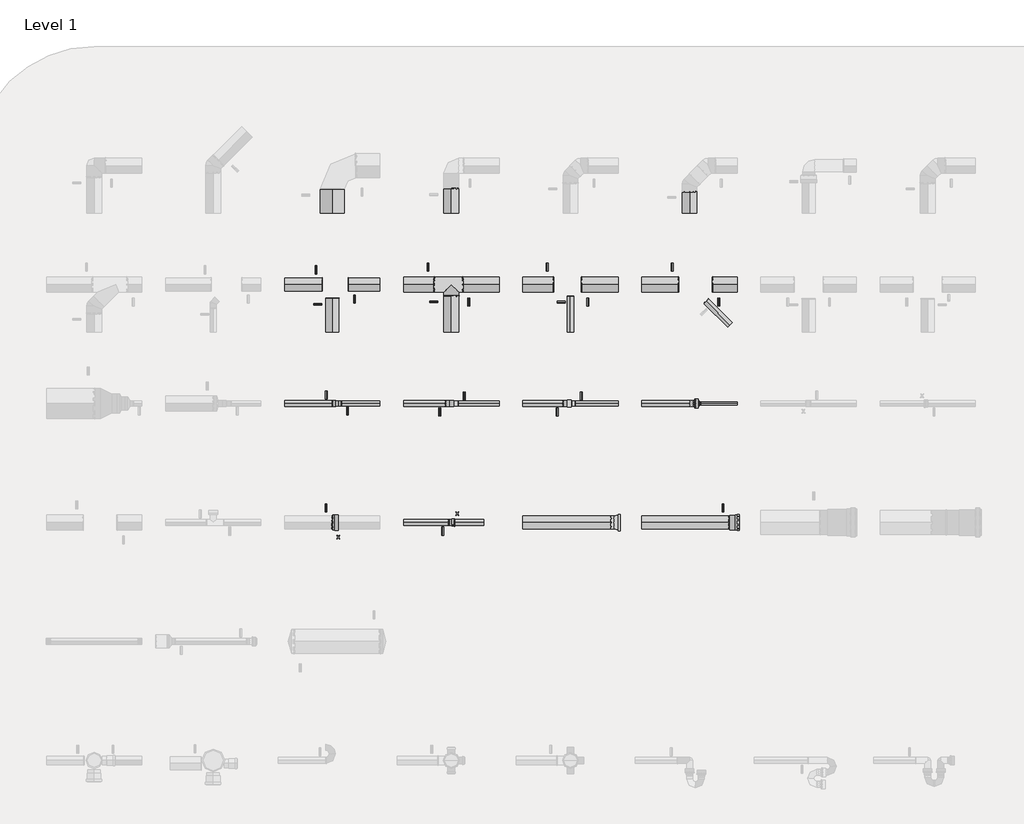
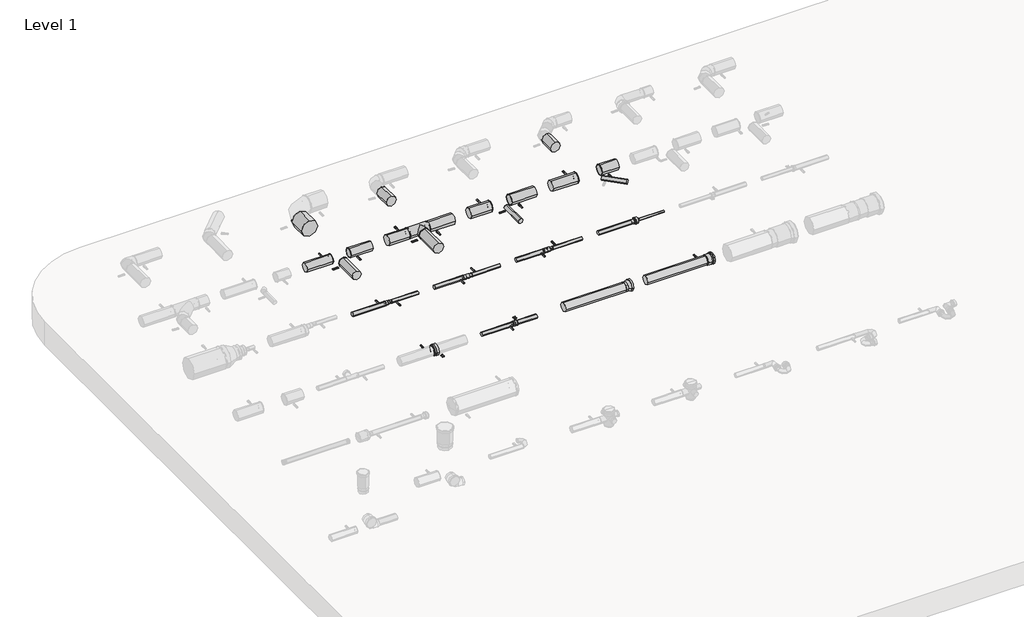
# One storey, part 3 of 6: 34 pipe fittings, 27 pipe segments.
"""IFC4 building model written with IfcOpenShell, lengths in millimetres."""

from ifc_helpers import new_model, si_unit, point, frame, frame_2d, origin, place, context, project, spatial, circle_curve, trimmed, segment, composite_curve, outline, extrude, transform, mapped, element, save
from components import pipe_fitting_81bb528a, pipe_fitting_5bbf7105, var_7b0d4120, var_48b90cc6, var_c57503f9, var_00a72124, var_98dd62a4, nested_do_not_use_db0ed7d6, nested_do_not_use_a526494d, nested_do_not_use_e3f89409, nested_do_not_use_0fed0da3, nested_do_not_use_1446917e, nested_do_not_use_93614455, nested_do_not_use_7e7c9079, welded_7e5780db, welded_75b1cb19, welded_dc74d5dd, welded_63566782, welded_ac007b25

model = new_model("IFC4")

# Units and contexts
model_context = context("Model", 3, world=origin())
ifc_project = project(units=[si_unit("LENGTHUNIT", "METRE", prefix="MILLI")], contexts=[model_context])

# Site, building, storey
site = spatial("IfcSite", under=ifc_project)
building = spatial("IfcBuilding", under=site)
storey = spatial("IfcBuildingStorey", under=building, Name="Level 1", Elevation=0.0)

# Pipe fittings
placement = place(None, origin())
pipe_fitting_shape = pipe_fitting_81bb528a(model_context)
element("IfcPipeFitting", 1, ObjectType="NLRS_52_PIF_UN_HDPE weld_Akatherm : ringseal or non-welded", at=placement, inside=storey, context=model_context, shape_type="MappedRepresentation", body=[
    mapped(pipe_fitting_shape, transform((4665.9781064, 17273.6274824, 200.0), x_axis=(1.0, 0.0, 0.0), y_axis=(0.0, 1.0, 0.0), z_axis=(0.0, 0.0, 1.0))),
])
pipe_fitting_2_shape = pipe_fitting_5bbf7105(model_context)
element("IfcPipeFitting", 2, ObjectType="NLRS_52_PIF_UN_HDPE weld_Akatherm : ringseal or non-welded", at=placement, inside=storey, context=model_context, shape_type="MappedRepresentation", body=[
    mapped(pipe_fitting_2_shape, transform((5664.9781064, 17273.6274824, 200.0), x_axis=(1.0, 0.0, 0.0), y_axis=(0.0, -1.0, 0.0), z_axis=(0.0, 0.0, -1.0))),
])
var_shape = var_7b0d4120(model_context)
element("IfcPipeFitting", 3, ObjectType="NLRS_52_PIF_UN_HDPE branch_Akatherm : Var.", at=placement, inside=storey, context=model_context, shape_type="MappedRepresentation", body=[
    mapped(var_shape, transform((5659.9781064, 19273.6274824, 200.0), x_axis=(-1.0, 0.0, 0.0), y_axis=(0.0, -1.0, 0.0), z_axis=(0.0, 0.0, 1.0))),
])
var_2_shape = var_48b90cc6(model_context)
element("IfcPipeFitting", 4, ObjectType="NLRS_52_PIF_UN_HDPE snap socket short_Akatherm : Var.", at=placement, inside=storey, context=model_context, shape_type="MappedRepresentation", body=[
    mapped(var_2_shape, transform((4659.9781064, 17273.6274824, 200.0), x_axis=(1.0, 0.0, 0.0), y_axis=(0.0, 1.0, 0.0), z_axis=(0.0, 0.0, 1.0))),
])
var_3_shape = var_c57503f9(model_context)
element("IfcPipeFitting", 5, ObjectType="NLRS_52_PIF_UN_HDPE snap socket_Akatherm : Var.", at=placement, inside=storey, context=model_context, shape_type="MappedRepresentation", body=[
    mapped(var_3_shape, transform((7997.9781064, 17273.6274824, 200.0), x_axis=(1.0, 0.0, 0.0), y_axis=(0.0, 1.0, 0.0), z_axis=(0.0, 0.0, 1.0))),
])
var_4_shape = var_00a72124(model_context)
element("IfcPipeFitting", 6, ObjectType="NLRS_52_PIF_UN_HDPE stub flange_Akatherm : Var.", at=placement, inside=storey, context=model_context, shape_type="MappedRepresentation", body=[
    mapped(var_4_shape, transform((7079.9781064, 17273.6274824, 200.0), x_axis=(-1.0000000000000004, 0.0, 0.0), y_axis=(0.0, -1.0000000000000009, 0.0), z_axis=(0.0, 0.0, 1.0000000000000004))),
])
var_5_shape = var_98dd62a4(model_context)
element("IfcPipeFitting", 7, ObjectType="NLRS_52_PIF_UN_HDPE threaded connector_Akatherm : Var.", at=placement, inside=storey, context=model_context, shape_type="MappedRepresentation", body=[
    mapped(var_5_shape, transform((7709.9781064, 18273.6274824, 200.0), x_axis=(1.0, 0.0, 0.0), y_axis=(0.0, 1.0, 0.0), z_axis=(0.0, 0.0, 1.0))),
])
nested_do_not_use_shape = nested_do_not_use_db0ed7d6(model_context)
element("IfcPipeFitting", 8, ObjectType="NLRS_52_PIF_UN_HDPE female thread adapter -SH_Akatherm : nested, do not use", at=placement, inside=storey, context=model_context, shape_type="MappedRepresentation", body=[
    mapped(nested_do_not_use_shape, transform((5644.9781064, 18273.6274824, 200.0), x_axis=(1.0, 0.0, 0.0), y_axis=(0.0, 1.0, 0.0), z_axis=(0.0, 0.0, 1.0))),
])
nested_do_not_use_2_shape = nested_do_not_use_a526494d(model_context)
element("IfcPipeFitting", 9, ObjectType="NLRS_52_PIF_UN_HDPE female thread adapter -SH_Akatherm : nested, do not use", at=placement, inside=storey, context=model_context, shape_type="MappedRepresentation", body=[
    mapped(nested_do_not_use_2_shape, transform((6669.9781064, 18273.6274824, 200.0), x_axis=(-1.0, 0.0, 0.0), y_axis=(0.0, -1.0, 0.0), z_axis=(0.0, 0.0, 1.0))),
])
nested_do_not_use_3_shape = nested_do_not_use_e3f89409(model_context)
element("IfcPipeFitting", 10, ObjectType="NLRS_52_PIF_UN_HDPE male thread adapter -SH_Akatherm : nested, do not use", at=placement, inside=storey, context=model_context, shape_type="MappedRepresentation", body=[
    mapped(nested_do_not_use_3_shape, transform((5689.9781064, 18273.6274824, 200.0), x_axis=(-1.0, 0.0, 0.0), y_axis=(0.0, -1.0, 0.0), z_axis=(0.0, 0.0, 1.0))),
])
nested_do_not_use_4_shape = nested_do_not_use_0fed0da3(model_context)
element("IfcPipeFitting", 11, ObjectType="NLRS_52_PIF_UN_HDPE male thread adapter -SH_Akatherm : nested, do not use", at=placement, inside=storey, context=model_context, shape_type="MappedRepresentation", body=[
    mapped(nested_do_not_use_4_shape, transform((6627.4781064, 18273.6274824, 200.0), x_axis=(1.0, 0.0, 0.0), y_axis=(0.0, 1.0, 0.0), z_axis=(0.0, 0.0, 1.0))),
])
nested_do_not_use_5_shape = nested_do_not_use_1446917e(model_context)
element("IfcPipeFitting", 12, ObjectType="NLRS_52_PIF_UN_HDPE reducer -SH_Akatherm : nested, do not use", at=placement, inside=storey, context=model_context, shape_type="MappedRepresentation", body=[
    mapped(nested_do_not_use_5_shape, transform((4698.2781064, 18273.6274824, 200.0), x_axis=(1.0, 0.0, 0.0), y_axis=(0.0, 1.0, 0.0), z_axis=(0.0, 0.0, 1.0))),
])
nested_do_not_use_6_shape = nested_do_not_use_93614455(model_context)
element("IfcPipeFitting", 13, ObjectType="NLRS_52_PIF_UN_HDPE rubber sleeve -SH_Akatherm : nested, do not use", at=placement, inside=storey, context=model_context, shape_type="MappedRepresentation", body=[
    mapped(nested_do_not_use_6_shape, transform((5676.9781064, 17273.6274824, 200.0), x_axis=(1.0, 0.0, 0.0), y_axis=(0.0, 1.0, 0.0), z_axis=(0.0, 0.0, 1.0))),
])
nested_do_not_use_7_shape = nested_do_not_use_7e7c9079(model_context)
element("IfcPipeFitting", 14, ObjectType="NLRS_52_PIF_UN_HDPE trap connecting socket -SH_Akatherm : nested, do not use", at=placement, inside=storey, context=model_context, shape_type="MappedRepresentation", body=[
    mapped(nested_do_not_use_7_shape, transform((5659.9781064, 17273.6274824, 200.0), x_axis=(1.0, 0.0, 0.0), y_axis=(0.0, 1.0, 0.0), z_axis=(0.0, 0.0, 1.0))),
])
welded_shape = welded_7e5780db(model_context)
element("IfcPipeFitting", 15, ObjectType="NLRS_52_PIF_UN_HDPE weld_Akatherm : welded", at=placement, inside=storey, context=model_context, shape_type="MappedRepresentation", body=[
    mapped(welded_shape, transform((5755.7781064, 19273.6274824, 200.0), x_axis=(1.0, 0.0, 0.0), y_axis=(0.0, 1.0, 0.0), z_axis=(0.0, 0.0, 1.0))),
])
element("IfcPipeFitting", 16, ObjectType="NLRS_52_PIF_UN_HDPE weld_Akatherm : welded", at=placement, inside=storey, context=model_context, shape_type="MappedRepresentation", body=[
    mapped(welded_shape, transform((5514.1781064, 19273.6274824, 200.0), x_axis=(-1.0, 0.0, 0.0), y_axis=(0.0, -1.0, 0.0), z_axis=(0.0, 0.0, 1.0))),
])
element("IfcPipeFitting", 17, ObjectType="NLRS_52_PIF_UN_HDPE weld_Akatherm : welded", at=placement, inside=storey, context=model_context, shape_type="MappedRepresentation", body=[
    mapped(welded_shape, transform((5659.9781064, 19177.8274824, 200.0), x_axis=(0.0, -1.0, 0.0), y_axis=(1.0, 0.0, 0.0), z_axis=(0.0, 0.0, 1.0))),
])
element("IfcPipeFitting", 18, ObjectType="NLRS_52_PIF_UN_HDPE weld_Akatherm : welded", at=placement, inside=storey, context=model_context, shape_type="MappedRepresentation", body=[
    mapped(welded_shape, transform((6755.7781064, 19273.6274824, 200.0), x_axis=(1.0, 0.0, 0.0), y_axis=(0.0, 1.0, 0.0), z_axis=(0.0, 0.0, 1.0))),
])
element("IfcPipeFitting", 19, ObjectType="NLRS_52_PIF_UN_HDPE weld_Akatherm : welded", at=placement, inside=storey, context=model_context, shape_type="MappedRepresentation", body=[
    mapped(welded_shape, transform((6514.1781064, 19273.6274824, 200.0), x_axis=(-1.0, 0.0, 0.0), y_axis=(0.0, -1.0, 0.0), z_axis=(0.0, 0.0, 1.0))),
])
element("IfcPipeFitting", 20, ObjectType="NLRS_52_PIF_UN_HDPE weld_Akatherm : welded", at=placement, inside=storey, context=model_context, shape_type="MappedRepresentation", body=[
    mapped(welded_shape, transform((7855.7781064, 19273.6274824, 200.0), x_axis=(1.0, 0.0, 0.0), y_axis=(0.0, 1.0, 0.0), z_axis=(0.0, 0.0, 1.0))),
])
element("IfcPipeFitting", 21, ObjectType="NLRS_52_PIF_UN_HDPE weld_Akatherm : welded", at=placement, inside=storey, context=model_context, shape_type="MappedRepresentation", body=[
    mapped(welded_shape, transform((7564.1781064, 19273.6274824, 200.0), x_axis=(-1.0, 0.0, 0.0), y_axis=(0.0, -1.0, 0.0), z_axis=(0.0, 0.0, 1.0))),
])
welded_2_shape = welded_75b1cb19(model_context)
element("IfcPipeFitting", 22, ObjectType="NLRS_52_PIF_UN_HDPE weld_Akatherm : welded", at=placement, inside=storey, context=model_context, shape_type="MappedRepresentation", body=[
    mapped(welded_2_shape, transform((4659.9781064, 18273.6274824, 200.0), x_axis=(-1.0, 0.0, 0.0), y_axis=(0.0, -1.0, 0.0), z_axis=(0.0, 0.0, 1.0))),
])
element("IfcPipeFitting", 23, ObjectType="NLRS_52_PIF_UN_HDPE weld_Akatherm : welded", at=placement, inside=storey, context=model_context, shape_type="MappedRepresentation", body=[
    mapped(welded_2_shape, transform((5611.6781064, 18273.6274824, 200.0), x_axis=(-1.0, 0.0, 0.0), y_axis=(0.0, 1.0, 0.0), z_axis=(0.0, 0.0, -1.0))),
])
element("IfcPipeFitting", 24, ObjectType="NLRS_52_PIF_UN_HDPE weld_Akatherm : welded", at=placement, inside=storey, context=model_context, shape_type="MappedRepresentation", body=[
    mapped(welded_2_shape, transform((6598.3781064, 18273.6274824, 200.0), x_axis=(-1.0, 0.0, 0.0), y_axis=(0.0, 1.0, 0.0), z_axis=(0.0, 0.0, -1.0))),
])
element("IfcPipeFitting", 25, ObjectType="NLRS_52_PIF_UN_HDPE weld_Akatherm : welded", at=placement, inside=storey, context=model_context, shape_type="MappedRepresentation", body=[
    mapped(welded_2_shape, transform((5636.6781064, 17273.6274824, 200.0), x_axis=(-1.0, 0.0, 0.0), y_axis=(0.0, 1.0, 0.0), z_axis=(0.0, 0.0, -1.0))),
])
welded_3_shape = welded_dc74d5dd(model_context)
element("IfcPipeFitting", 26, ObjectType="NLRS_52_PIF_UN_HDPE weld_Akatherm : welded", at=placement, inside=storey, context=model_context, shape_type="MappedRepresentation", body=[
    mapped(welded_3_shape, transform((6659.9781064, 19175.3274824, 200.0), x_axis=(0.0, -1.0, 0.0), y_axis=(1.0, 0.0, 0.0), z_axis=(0.0, 0.0, 1.0))),
])
welded_4_shape = welded_63566782(model_context)
element("IfcPipeFitting", 27, ObjectType="NLRS_52_PIF_UN_HDPE weld_Akatherm : welded", at=placement, inside=storey, context=model_context, shape_type="MappedRepresentation", body=[
    mapped(welded_4_shape, transform((4736.5781064, 18273.6274824, 200.0), x_axis=(1.0, 0.0, 0.0), y_axis=(0.0, 1.0, 0.0), z_axis=(0.0, 0.0, 1.0))),
])
element("IfcPipeFitting", 28, ObjectType="NLRS_52_PIF_UN_HDPE weld_Akatherm : welded", at=placement, inside=storey, context=model_context, shape_type="MappedRepresentation", body=[
    mapped(welded_4_shape, transform((5718.2781064, 18273.6274824, 200.0), x_axis=(1.0, 0.0, 0.0), y_axis=(0.0, -1.0, 0.0), z_axis=(0.0, 0.0, -1.0))),
])
element("IfcPipeFitting", 29, ObjectType="NLRS_52_PIF_UN_HDPE weld_Akatherm : welded", at=placement, inside=storey, context=model_context, shape_type="MappedRepresentation", body=[
    mapped(welded_4_shape, transform((6701.5781064, 18273.6274824, 200.0), x_axis=(1.0, 0.0, 0.0), y_axis=(0.0, -1.0, 0.0), z_axis=(0.0, 0.0, -1.0))),
])
welded_5_shape = welded_ac007b25(model_context)
element("IfcPipeFitting", 30, ObjectType="NLRS_52_PIF_UN_HDPE weld_Akatherm : welded", at=placement, inside=storey, context=model_context, shape_type="MappedRepresentation", body=[
    mapped(welded_5_shape, transform((4796.2781064, 19273.6274824, 200.0), x_axis=(1.0, 0.0, 0.0), y_axis=(0.0, 1.0, 0.0), z_axis=(0.0, 0.0, 1.0))),
])
element("IfcPipeFitting", 31, ObjectType="NLRS_52_PIF_UN_HDPE weld_Akatherm : welded", at=placement, inside=storey, context=model_context, shape_type="MappedRepresentation", body=[
    mapped(welded_5_shape, transform((4573.6781064, 19273.6274824, 200.0), x_axis=(-1.0, 0.0, 0.0), y_axis=(0.0, -1.0, 0.0), z_axis=(0.0, 0.0, 1.0))),
])
element("IfcPipeFitting", 32, ObjectType="NLRS_52_PIF_UN_HDPE weld_Akatherm : welded", at=placement, inside=storey, context=model_context, shape_type="MappedRepresentation", body=[
    mapped(welded_5_shape, transform((4659.9781064, 19157.3274824, 200.0), x_axis=(0.0, -1.0, 0.0), y_axis=(1.0, 0.0, 0.0), z_axis=(0.0, 0.0, 1.0))),
])
element("IfcPipeFitting", 33, ObjectType="NLRS_52_PIF_UN_HDPE weld_Akatherm : welded", at=placement, inside=storey, context=model_context, shape_type="MappedRepresentation", body=[
    mapped(welded_5_shape, transform((4657.6781064, 17273.6274824, 200.0), x_axis=(-1.0, 0.0, 0.0), y_axis=(0.0, -1.0, 0.0), z_axis=(0.0, 0.0, 1.0))),
])
element("IfcPipeFitting", 34, ObjectType="NLRS_52_PIF_UN_HDPE weld_Akatherm : welded", at=placement, inside=storey, context=model_context, shape_type="MappedRepresentation", body=[
    mapped(welded_5_shape, transform((7991.6781064, 17273.6274824, 200.0), x_axis=(-1.0, 0.0, 0.0), y_axis=(0.0, -1.0, 0.0), z_axis=(0.0, 0.0, 1.0))),
])

# Pipe segments
element("IfcPipeSegment", 35, ObjectType="NLRS_52_PI_HDPE buis (DN)_Akatherm", at=placement, inside=storey, context=model_context, shape_type="SweptSolid", body=[
    extrude(outline(composite_curve([segment(trimmed(circle_curve(frame_2d((200.0, 4659.9781064)), 100.0), [point((200.0, 4559.9781064))], [point((100.0, 4659.9781064))], False, "CARTESIAN"), True, "CONTINUOUS"), segment(trimmed(circle_curve(frame_2d((200.0, 4659.9781064)), 100.0), [point((100.0, 4659.9781064))], [point((200.0, 4759.9781064))], False, "CARTESIAN"), True, "CONTINUOUS"), segment(trimmed(circle_curve(frame_2d((200.0, 4659.9781064)), 100.0), [point((200.0, 4759.9781064))], [point((300.0, 4659.9781064))], False, "CARTESIAN"), True, "CONTINUOUS"), segment(trimmed(circle_curve(frame_2d((200.0, 4659.9781064)), 100.0), [point((300.0, 4659.9781064))], [point((200.0, 4559.9781064))], False, "CARTESIAN"), True, "CONTINUOUS")], self_intersect=False)), frame((0.0, 19873.6274824, 0.0), z_axis=(0.0, 1.0, 0.0), x_axis=(0.0, 0.0, 1.0)), (0.0, 0.0, 1.0), 206.4),
])
element("IfcPipeSegment", 36, ObjectType="NLRS_52_PI_HDPE buis (DN)_Akatherm", at=placement, inside=storey, context=model_context, shape_type="SweptSolid", body=[
    extrude(outline(composite_curve([segment(trimmed(circle_curve(frame_2d((200.0, 5659.9781064)), 62.5), [point((200.0, 5597.4781064))], [point((137.5, 5659.9781064))], False, "CARTESIAN"), True, "CONTINUOUS"), segment(trimmed(circle_curve(frame_2d((200.0, 5659.9781064)), 62.5), [point((137.5, 5659.9781064))], [point((200.0, 5722.4781064))], False, "CARTESIAN"), True, "CONTINUOUS"), segment(trimmed(circle_curve(frame_2d((200.0, 5659.9781064)), 62.5), [point((200.0, 5722.4781064))], [point((262.5, 5659.9781064))], False, "CARTESIAN"), True, "CONTINUOUS"), segment(trimmed(circle_curve(frame_2d((200.0, 5659.9781064)), 62.5), [point((262.5, 5659.9781064))], [point((200.0, 5597.4781064))], False, "CARTESIAN"), True, "CONTINUOUS")], self_intersect=False)), frame((0.0, 19873.6274824, 0.0), z_axis=(0.0, 1.0, 0.0), x_axis=(0.0, 0.0, 1.0)), (0.0, 0.0, 1.0), 208.4),
])
element("IfcPipeSegment", 37, ObjectType="NLRS_52_PI_HDPE buis (DN)_Akatherm", at=placement, inside=storey, context=model_context, shape_type="SweptSolid", body=[
    extrude(outline(composite_curve([segment(trimmed(circle_curve(frame_2d((200.0, 7659.9781064)), 62.5), [point((200.0, 7597.4781064))], [point((137.5, 7659.9781064))], False, "CARTESIAN"), True, "CONTINUOUS"), segment(trimmed(circle_curve(frame_2d((200.0, 7659.9781064)), 62.5), [point((137.5, 7659.9781064))], [point((200.0, 7722.4781064))], False, "CARTESIAN"), True, "CONTINUOUS"), segment(trimmed(circle_curve(frame_2d((200.0, 7659.9781064)), 62.5), [point((200.0, 7722.4781064))], [point((262.5, 7659.9781064))], False, "CARTESIAN"), True, "CONTINUOUS"), segment(trimmed(circle_curve(frame_2d((200.0, 7659.9781064)), 62.5), [point((262.5, 7659.9781064))], [point((200.0, 7597.4781064))], False, "CARTESIAN"), True, "CONTINUOUS")], self_intersect=False)), frame((0.0, 19873.6274824, 0.0), z_axis=(0.0, 1.0, 0.0), x_axis=(0.0, 0.0, 1.0)), (0.0, 0.0, 1.0), 186.7051373),
])
element("IfcPipeSegment", 38, ObjectType="NLRS_52_PI_HDPE buis (DN)_Akatherm", at=placement, inside=storey, context=model_context, shape_type="SweptSolid", body=[
    extrude(outline(composite_curve([segment(trimmed(circle_curve(frame_2d((19273.6274824, 200.0)), 55.0), [point((19218.6274824, 200.0))], [point((19273.6274824, 255.0))], False, "CARTESIAN"), True, "CONTINUOUS"), segment(trimmed(circle_curve(frame_2d((19273.6274824, 200.0)), 55.0), [point((19273.6274824, 255.0))], [point((19328.6274824, 200.0))], False, "CARTESIAN"), True, "CONTINUOUS"), segment(trimmed(circle_curve(frame_2d((19273.6274824, 200.0)), 55.0), [point((19328.6274824, 200.0))], [point((19273.6274824, 145.0))], False, "CARTESIAN"), True, "CONTINUOUS"), segment(trimmed(circle_curve(frame_2d((19273.6274824, 200.0)), 55.0), [point((19273.6274824, 145.0))], [point((19218.6274824, 200.0))], False, "CARTESIAN"), True, "CONTINUOUS")], self_intersect=False)), frame((4792.5781064, 0.0, 0.0), z_axis=(1.0, 0.0, 0.0), x_axis=(0.0, 1.0, 0.0)), (0.0, 0.0, 1.0), 267.4),
])
element("IfcPipeSegment", 39, ObjectType="NLRS_52_PI_HDPE buis (DN)_Akatherm", at=placement, inside=storey, context=model_context, shape_type="SweptSolid", body=[
    extrude(outline(composite_curve([segment(trimmed(circle_curve(frame_2d((200.0, 4659.9781064)), 55.0), [point((200.0, 4604.9781064))], [point((145.0, 4659.9781064))], False, "CARTESIAN"), True, "CONTINUOUS"), segment(trimmed(circle_curve(frame_2d((200.0, 4659.9781064)), 55.0), [point((145.0, 4659.9781064))], [point((200.0, 4714.9781064))], False, "CARTESIAN"), True, "CONTINUOUS"), segment(trimmed(circle_curve(frame_2d((200.0, 4659.9781064)), 55.0), [point((200.0, 4714.9781064))], [point((255.0, 4659.9781064))], False, "CARTESIAN"), True, "CONTINUOUS"), segment(trimmed(circle_curve(frame_2d((200.0, 4659.9781064)), 55.0), [point((255.0, 4659.9781064))], [point((200.0, 4604.9781064))], False, "CARTESIAN"), True, "CONTINUOUS")], self_intersect=False)), frame((0.0, 18873.6274824, 0.0), z_axis=(0.0, 1.0, 0.0), x_axis=(0.0, 0.0, 1.0)), (0.0, 0.0, 1.0), 287.4),
])
element("IfcPipeSegment", 40, ObjectType="NLRS_52_PI_HDPE buis (DN)_Akatherm", at=placement, inside=storey, context=model_context, shape_type="SweptSolid", body=[
    extrude(outline(composite_curve([segment(trimmed(circle_curve(frame_2d((200.0, 5659.9781064)), 62.5), [point((200.0, 5597.4781064))], [point((137.5, 5659.9781064))], False, "CARTESIAN"), True, "CONTINUOUS"), segment(trimmed(circle_curve(frame_2d((200.0, 5659.9781064)), 62.5), [point((137.5, 5659.9781064))], [point((200.0, 5722.4781064))], False, "CARTESIAN"), True, "CONTINUOUS"), segment(trimmed(circle_curve(frame_2d((200.0, 5659.9781064)), 62.5), [point((200.0, 5722.4781064))], [point((262.5, 5659.9781064))], False, "CARTESIAN"), True, "CONTINUOUS"), segment(trimmed(circle_curve(frame_2d((200.0, 5659.9781064)), 62.5), [point((262.5, 5659.9781064))], [point((200.0, 5597.4781064))], False, "CARTESIAN"), True, "CONTINUOUS")], self_intersect=False)), frame((0.0, 18873.6274824, 0.0), z_axis=(0.0, 1.0, 0.0), x_axis=(0.0, 0.0, 1.0)), (0.0, 0.0, 1.0), 308.4),
])
element("IfcPipeSegment", 41, ObjectType="NLRS_52_PI_HDPE buis (DN)_Akatherm", at=placement, inside=storey, context=model_context, shape_type="SweptSolid", body=[
    extrude(outline(composite_curve([segment(trimmed(circle_curve(frame_2d((19273.6274824, 200.0)), 55.0), [point((19218.6274824, 200.0))], [point((19273.6274824, 255.0))], False, "CARTESIAN"), True, "CONTINUOUS"), segment(trimmed(circle_curve(frame_2d((19273.6274824, 200.0)), 55.0), [point((19273.6274824, 255.0))], [point((19328.6274824, 200.0))], False, "CARTESIAN"), True, "CONTINUOUS"), segment(trimmed(circle_curve(frame_2d((19273.6274824, 200.0)), 55.0), [point((19328.6274824, 200.0))], [point((19273.6274824, 145.0))], False, "CARTESIAN"), True, "CONTINUOUS"), segment(trimmed(circle_curve(frame_2d((19273.6274824, 200.0)), 55.0), [point((19273.6274824, 145.0))], [point((19218.6274824, 200.0))], False, "CARTESIAN"), True, "CONTINUOUS")], self_intersect=False)), frame((4259.9781064, 0.0, 0.0), z_axis=(1.0, 0.0, 0.0), x_axis=(0.0, 1.0, 0.0)), (0.0, 0.0, 1.0), 317.4),
])
element("IfcPipeSegment", 42, ObjectType="NLRS_52_PI_HDPE buis (DN)_Akatherm", at=placement, inside=storey, context=model_context, shape_type="SweptSolid", body=[
    extrude(outline(composite_curve([segment(trimmed(circle_curve(frame_2d((19273.6274824, 200.0)), 62.5), [point((19211.1274824, 200.0))], [point((19273.6274824, 262.5))], False, "CARTESIAN"), True, "CONTINUOUS"), segment(trimmed(circle_curve(frame_2d((19273.6274824, 200.0)), 62.5), [point((19273.6274824, 262.5))], [point((19336.1274824, 200.0))], False, "CARTESIAN"), True, "CONTINUOUS"), segment(trimmed(circle_curve(frame_2d((19273.6274824, 200.0)), 62.5), [point((19336.1274824, 200.0))], [point((19273.6274824, 137.5))], False, "CARTESIAN"), True, "CONTINUOUS"), segment(trimmed(circle_curve(frame_2d((19273.6274824, 200.0)), 62.5), [point((19273.6274824, 137.5))], [point((19211.1274824, 200.0))], False, "CARTESIAN"), True, "CONTINUOUS")], self_intersect=False)), frame((5751.5781064, 0.0, 0.0), z_axis=(1.0, 0.0, 0.0), x_axis=(0.0, 1.0, 0.0)), (0.0, 0.0, 1.0), 308.4),
])
element("IfcPipeSegment", 43, ObjectType="NLRS_52_PI_HDPE buis (DN)_Akatherm", at=placement, inside=storey, context=model_context, shape_type="SweptSolid", body=[
    extrude(outline(composite_curve([segment(trimmed(circle_curve(frame_2d((19273.6274824, 200.0)), 62.5), [point((19211.1274824, 200.0))], [point((19273.6274824, 262.5))], False, "CARTESIAN"), True, "CONTINUOUS"), segment(trimmed(circle_curve(frame_2d((19273.6274824, 200.0)), 62.5), [point((19273.6274824, 262.5))], [point((19336.1274824, 200.0))], False, "CARTESIAN"), True, "CONTINUOUS"), segment(trimmed(circle_curve(frame_2d((19273.6274824, 200.0)), 62.5), [point((19336.1274824, 200.0))], [point((19273.6274824, 137.5))], False, "CARTESIAN"), True, "CONTINUOUS"), segment(trimmed(circle_curve(frame_2d((19273.6274824, 200.0)), 62.5), [point((19273.6274824, 137.5))], [point((19211.1274824, 200.0))], False, "CARTESIAN"), True, "CONTINUOUS")], self_intersect=False)), frame((5259.9781064, 0.0, 0.0), z_axis=(1.0, 0.0, 0.0), x_axis=(0.0, 1.0, 0.0)), (0.0, 0.0, 1.0), 258.4),
])
element("IfcPipeSegment", 44, ObjectType="NLRS_52_PI_HDPE buis (DN)_Akatherm", at=placement, inside=storey, context=model_context, shape_type="SweptSolid", body=[
    extrude(outline(composite_curve([segment(trimmed(circle_curve(frame_2d((200.0, 6659.9781064)), 28.0), [point((200.0, 6631.9781064))], [point((172.0, 6659.9781064))], False, "CARTESIAN"), True, "CONTINUOUS"), segment(trimmed(circle_curve(frame_2d((200.0, 6659.9781064)), 28.0), [point((172.0, 6659.9781064))], [point((200.0, 6687.9781064))], False, "CARTESIAN"), True, "CONTINUOUS"), segment(trimmed(circle_curve(frame_2d((200.0, 6659.9781064)), 28.0), [point((200.0, 6687.9781064))], [point((228.0, 6659.9781064))], False, "CARTESIAN"), True, "CONTINUOUS"), segment(trimmed(circle_curve(frame_2d((200.0, 6659.9781064)), 28.0), [point((228.0, 6659.9781064))], [point((200.0, 6631.9781064))], False, "CARTESIAN"), True, "CONTINUOUS")], self_intersect=False)), frame((0.0, 18873.6274824, 0.0), z_axis=(0.0, 1.0, 0.0), x_axis=(0.0, 0.0, 1.0)), (0.0, 0.0, 1.0), 303.4),
])
element("IfcPipeSegment", 45, ObjectType="NLRS_52_PI_HDPE buis (DN)_Akatherm", at=placement, inside=storey, context=model_context, shape_type="SweptSolid", body=[
    extrude(outline(composite_curve([segment(trimmed(circle_curve(frame_2d((19273.6274824, 200.0)), 62.5), [point((19211.1274824, 200.0))], [point((19273.6274824, 262.5))], False, "CARTESIAN"), True, "CONTINUOUS"), segment(trimmed(circle_curve(frame_2d((19273.6274824, 200.0)), 62.5), [point((19273.6274824, 262.5))], [point((19336.1274824, 200.0))], False, "CARTESIAN"), True, "CONTINUOUS"), segment(trimmed(circle_curve(frame_2d((19273.6274824, 200.0)), 62.5), [point((19336.1274824, 200.0))], [point((19273.6274824, 137.5))], False, "CARTESIAN"), True, "CONTINUOUS"), segment(trimmed(circle_curve(frame_2d((19273.6274824, 200.0)), 62.5), [point((19273.6274824, 137.5))], [point((19211.1274824, 200.0))], False, "CARTESIAN"), True, "CONTINUOUS")], self_intersect=False)), frame((6751.5781064, 0.0, 0.0), z_axis=(1.0, 0.0, 0.0), x_axis=(0.0, 1.0, 0.0)), (0.0, 0.0, 1.0), 308.4),
])
element("IfcPipeSegment", 46, ObjectType="NLRS_52_PI_HDPE buis (DN)_Akatherm", at=placement, inside=storey, context=model_context, shape_type="SweptSolid", body=[
    extrude(outline(composite_curve([segment(trimmed(circle_curve(frame_2d((19273.6274824, 200.0)), 62.5), [point((19211.1274824, 200.0))], [point((19273.6274824, 262.5))], False, "CARTESIAN"), True, "CONTINUOUS"), segment(trimmed(circle_curve(frame_2d((19273.6274824, 200.0)), 62.5), [point((19273.6274824, 262.5))], [point((19336.1274824, 200.0))], False, "CARTESIAN"), True, "CONTINUOUS"), segment(trimmed(circle_curve(frame_2d((19273.6274824, 200.0)), 62.5), [point((19336.1274824, 200.0))], [point((19273.6274824, 137.5))], False, "CARTESIAN"), True, "CONTINUOUS"), segment(trimmed(circle_curve(frame_2d((19273.6274824, 200.0)), 62.5), [point((19273.6274824, 137.5))], [point((19211.1274824, 200.0))], False, "CARTESIAN"), True, "CONTINUOUS")], self_intersect=False)), frame((6259.9781064, 0.0, 0.0), z_axis=(1.0, 0.0, 0.0), x_axis=(0.0, 1.0, 0.0)), (0.0, 0.0, 1.0), 258.4),
])
element("IfcPipeSegment", 47, ObjectType="NLRS_52_PI_HDPE buis (DN)_Akatherm", at=placement, inside=storey, context=model_context, shape_type="SweptSolid", body=[
    extrude(outline(composite_curve([segment(trimmed(circle_curve(frame_2d((0.0, -28.0)), 28.0), [point((-28.0, -28.0))], [point((0.0, 0.0))], False, "CARTESIAN"), True, "CONTINUOUS"), segment(trimmed(circle_curve(frame_2d((0.0, -28.0)), 28.0), [point((0.0, 0.0))], [point((28.0, -28.0))], False, "CARTESIAN"), True, "CONTINUOUS"), segment(trimmed(circle_curve(frame_2d((0.0, -28.0)), 28.0), [point((28.0, -28.0))], [point((0.0, -56.0))], False, "CARTESIAN"), True, "CONTINUOUS"), segment(trimmed(circle_curve(frame_2d((0.0, -28.0)), 28.0), [point((0.0, -56.0))], [point((-28.0, -28.0))], False, "CARTESIAN"), True, "CONTINUOUS")], self_intersect=False)), frame((7999.3893614, 18934.2162274, 172.0), z_axis=(-0.7071067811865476, 0.7071067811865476, 0.0), x_axis=(0.7071067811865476, 0.7071067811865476, 0.0)), (0.0, 0.0, 1.0), 283.4),
])
element("IfcPipeSegment", 48, ObjectType="NLRS_52_PI_HDPE buis (DN)_Akatherm", at=placement, inside=storey, context=model_context, shape_type="SweptSolid", body=[
    extrude(outline(composite_curve([segment(trimmed(circle_curve(frame_2d((19273.6274824, 200.0)), 62.5), [point((19211.1274824, 200.0))], [point((19273.6274824, 262.5))], False, "CARTESIAN"), True, "CONTINUOUS"), segment(trimmed(circle_curve(frame_2d((19273.6274824, 200.0)), 62.5), [point((19273.6274824, 262.5))], [point((19336.1274824, 200.0))], False, "CARTESIAN"), True, "CONTINUOUS"), segment(trimmed(circle_curve(frame_2d((19273.6274824, 200.0)), 62.5), [point((19336.1274824, 200.0))], [point((19273.6274824, 137.5))], False, "CARTESIAN"), True, "CONTINUOUS"), segment(trimmed(circle_curve(frame_2d((19273.6274824, 200.0)), 62.5), [point((19273.6274824, 137.5))], [point((19211.1274824, 200.0))], False, "CARTESIAN"), True, "CONTINUOUS")], self_intersect=False)), frame((7851.5781064, 0.0, 0.0), z_axis=(1.0, 0.0, 0.0), x_axis=(0.0, 1.0, 0.0)), (0.0, 0.0, 1.0), 208.4),
])
element("IfcPipeSegment", 49, ObjectType="NLRS_52_PI_HDPE buis (DN)_Akatherm", at=placement, inside=storey, context=model_context, shape_type="SweptSolid", body=[
    extrude(outline(composite_curve([segment(trimmed(circle_curve(frame_2d((19273.6274824, 200.0)), 62.5), [point((19211.1274824, 200.0))], [point((19273.6274824, 262.5))], False, "CARTESIAN"), True, "CONTINUOUS"), segment(trimmed(circle_curve(frame_2d((19273.6274824, 200.0)), 62.5), [point((19273.6274824, 262.5))], [point((19336.1274824, 200.0))], False, "CARTESIAN"), True, "CONTINUOUS"), segment(trimmed(circle_curve(frame_2d((19273.6274824, 200.0)), 62.5), [point((19336.1274824, 200.0))], [point((19273.6274824, 137.5))], False, "CARTESIAN"), True, "CONTINUOUS"), segment(trimmed(circle_curve(frame_2d((19273.6274824, 200.0)), 62.5), [point((19273.6274824, 137.5))], [point((19211.1274824, 200.0))], False, "CARTESIAN"), True, "CONTINUOUS")], self_intersect=False)), frame((7259.9781064, 0.0, 0.0), z_axis=(1.0, 0.0, 0.0), x_axis=(0.0, 1.0, 0.0)), (0.0, 0.0, 1.0), 308.4),
])
element("IfcPipeSegment", 50, ObjectType="NLRS_52_PI_HDPE buis (DN)_Akatherm", at=placement, inside=storey, context=model_context, shape_type="SweptSolid", body=[
    extrude(outline(composite_curve([segment(trimmed(circle_curve(frame_2d((18273.6274824, 200.0)), 25.0), [point((18248.6274824, 200.0))], [point((18273.6274824, 225.0))], False, "CARTESIAN"), True, "CONTINUOUS"), segment(trimmed(circle_curve(frame_2d((18273.6274824, 200.0)), 25.0), [point((18273.6274824, 225.0))], [point((18298.6274824, 200.0))], False, "CARTESIAN"), True, "CONTINUOUS"), segment(trimmed(circle_curve(frame_2d((18273.6274824, 200.0)), 25.0), [point((18298.6274824, 200.0))], [point((18273.6274824, 175.0))], False, "CARTESIAN"), True, "CONTINUOUS"), segment(trimmed(circle_curve(frame_2d((18273.6274824, 200.0)), 25.0), [point((18273.6274824, 175.0))], [point((18248.6274824, 200.0))], False, "CARTESIAN"), True, "CONTINUOUS")], self_intersect=False)), frame((4259.9781064, 0.0, 0.0), z_axis=(1.0, 0.0, 0.0), x_axis=(0.0, 1.0, 0.0)), (0.0, 0.0, 1.0), 401.7),
])
element("IfcPipeSegment", 51, ObjectType="NLRS_52_PI_HDPE buis (DN)_Akatherm", at=placement, inside=storey, context=model_context, shape_type="SweptSolid", body=[
    extrude(outline(composite_curve([segment(trimmed(circle_curve(frame_2d((18273.6274824, 200.0)), 20.0), [point((18253.6274824, 200.0))], [point((18273.6274824, 220.0))], False, "CARTESIAN"), True, "CONTINUOUS"), segment(trimmed(circle_curve(frame_2d((18273.6274824, 200.0)), 20.0), [point((18273.6274824, 220.0))], [point((18293.6274824, 200.0))], False, "CARTESIAN"), True, "CONTINUOUS"), segment(trimmed(circle_curve(frame_2d((18273.6274824, 200.0)), 20.0), [point((18293.6274824, 200.0))], [point((18273.6274824, 180.0))], False, "CARTESIAN"), True, "CONTINUOUS"), segment(trimmed(circle_curve(frame_2d((18273.6274824, 200.0)), 20.0), [point((18273.6274824, 180.0))], [point((18253.6274824, 200.0))], False, "CARTESIAN"), True, "CONTINUOUS")], self_intersect=False)), frame((4734.8781064, 0.0, 0.0), z_axis=(1.0, 0.0, 0.0), x_axis=(0.0, 1.0, 0.0)), (0.0, 0.0, 1.0), 325.1),
])
element("IfcPipeSegment", 52, ObjectType="NLRS_52_PI_HDPE buis (DN)_Akatherm", at=placement, inside=storey, context=model_context, shape_type="SweptSolid", body=[
    extrude(outline(composite_curve([segment(trimmed(circle_curve(frame_2d((18273.6274824, 200.0)), 25.0), [point((18248.6274824, 200.0))], [point((18273.6274824, 225.0))], False, "CARTESIAN"), True, "CONTINUOUS"), segment(trimmed(circle_curve(frame_2d((18273.6274824, 200.0)), 25.0), [point((18273.6274824, 225.0))], [point((18298.6274824, 200.0))], False, "CARTESIAN"), True, "CONTINUOUS"), segment(trimmed(circle_curve(frame_2d((18273.6274824, 200.0)), 25.0), [point((18298.6274824, 200.0))], [point((18273.6274824, 175.0))], False, "CARTESIAN"), True, "CONTINUOUS"), segment(trimmed(circle_curve(frame_2d((18273.6274824, 200.0)), 25.0), [point((18273.6274824, 175.0))], [point((18248.6274824, 200.0))], False, "CARTESIAN"), True, "CONTINUOUS")], self_intersect=False)), frame((5259.9781064, 0.0, 0.0), z_axis=(1.0, 0.0, 0.0), x_axis=(0.0, 1.0, 0.0)), (0.0, 0.0, 1.0), 353.4),
])
element("IfcPipeSegment", 53, ObjectType="NLRS_52_PI_HDPE buis (DN)_Akatherm", at=placement, inside=storey, context=model_context, shape_type="SweptSolid", body=[
    extrude(outline(composite_curve([segment(trimmed(circle_curve(frame_2d((18273.6274824, 200.0)), 20.0), [point((18253.6274824, 200.0))], [point((18273.6274824, 220.0))], False, "CARTESIAN"), True, "CONTINUOUS"), segment(trimmed(circle_curve(frame_2d((18273.6274824, 200.0)), 20.0), [point((18273.6274824, 220.0))], [point((18293.6274824, 200.0))], False, "CARTESIAN"), True, "CONTINUOUS"), segment(trimmed(circle_curve(frame_2d((18273.6274824, 200.0)), 20.0), [point((18293.6274824, 200.0))], [point((18273.6274824, 180.0))], False, "CARTESIAN"), True, "CONTINUOUS"), segment(trimmed(circle_curve(frame_2d((18273.6274824, 200.0)), 20.0), [point((18273.6274824, 180.0))], [point((18253.6274824, 200.0))], False, "CARTESIAN"), True, "CONTINUOUS")], self_intersect=False)), frame((5716.5781064, 0.0, 0.0), z_axis=(1.0, 0.0, 0.0), x_axis=(0.0, 1.0, 0.0)), (0.0, 0.0, 1.0), 343.4),
])
element("IfcPipeSegment", 54, ObjectType="NLRS_52_PI_HDPE buis (DN)_Akatherm", at=placement, inside=storey, context=model_context, shape_type="SweptSolid", body=[
    extrude(outline(composite_curve([segment(trimmed(circle_curve(frame_2d((18273.6274824, 200.0)), 25.0), [point((18248.6274824, 200.0))], [point((18273.6274824, 225.0))], False, "CARTESIAN"), True, "CONTINUOUS"), segment(trimmed(circle_curve(frame_2d((18273.6274824, 200.0)), 25.0), [point((18273.6274824, 225.0))], [point((18298.6274824, 200.0))], False, "CARTESIAN"), True, "CONTINUOUS"), segment(trimmed(circle_curve(frame_2d((18273.6274824, 200.0)), 25.0), [point((18298.6274824, 200.0))], [point((18273.6274824, 175.0))], False, "CARTESIAN"), True, "CONTINUOUS"), segment(trimmed(circle_curve(frame_2d((18273.6274824, 200.0)), 25.0), [point((18273.6274824, 175.0))], [point((18248.6274824, 200.0))], False, "CARTESIAN"), True, "CONTINUOUS")], self_intersect=False)), frame((6259.9781064, 0.0, 0.0), z_axis=(1.0, 0.0, 0.0), x_axis=(0.0, 1.0, 0.0)), (0.0, 0.0, 1.0), 340.1),
])
element("IfcPipeSegment", 55, ObjectType="NLRS_52_PI_HDPE buis (DN)_Akatherm", at=placement, inside=storey, context=model_context, shape_type="SweptSolid", body=[
    extrude(outline(composite_curve([segment(trimmed(circle_curve(frame_2d((18273.6274824, 200.0)), 20.0), [point((18253.6274824, 200.0))], [point((18273.6274824, 220.0))], False, "CARTESIAN"), True, "CONTINUOUS"), segment(trimmed(circle_curve(frame_2d((18273.6274824, 200.0)), 20.0), [point((18273.6274824, 220.0))], [point((18293.6274824, 200.0))], False, "CARTESIAN"), True, "CONTINUOUS"), segment(trimmed(circle_curve(frame_2d((18273.6274824, 200.0)), 20.0), [point((18293.6274824, 200.0))], [point((18273.6274824, 180.0))], False, "CARTESIAN"), True, "CONTINUOUS"), segment(trimmed(circle_curve(frame_2d((18273.6274824, 200.0)), 20.0), [point((18273.6274824, 180.0))], [point((18253.6274824, 200.0))], False, "CARTESIAN"), True, "CONTINUOUS")], self_intersect=False)), frame((6699.8781064, 0.0, 0.0), z_axis=(1.0, 0.0, 0.0), x_axis=(0.0, 1.0, 0.0)), (0.0, 0.0, 1.0), 360.1),
])
element("IfcPipeSegment", 56, ObjectType="NLRS_52_PI_HDPE buis (DN)_Akatherm", at=placement, inside=storey, context=model_context, shape_type="SweptSolid", body=[
    extrude(outline(composite_curve([segment(trimmed(circle_curve(frame_2d((17273.6274824, 200.0)), 25.0), [point((17248.6274824, 200.0))], [point((17273.6274824, 225.0))], False, "CARTESIAN"), True, "CONTINUOUS"), segment(trimmed(circle_curve(frame_2d((17273.6274824, 200.0)), 25.0), [point((17273.6274824, 225.0))], [point((17298.6274824, 200.0))], False, "CARTESIAN"), True, "CONTINUOUS"), segment(trimmed(circle_curve(frame_2d((17273.6274824, 200.0)), 25.0), [point((17298.6274824, 200.0))], [point((17273.6274824, 175.0))], False, "CARTESIAN"), True, "CONTINUOUS"), segment(trimmed(circle_curve(frame_2d((17273.6274824, 200.0)), 25.0), [point((17273.6274824, 175.0))], [point((17248.6274824, 200.0))], False, "CARTESIAN"), True, "CONTINUOUS")], self_intersect=False)), frame((5259.9781064, 0.0, 0.0), z_axis=(1.0, 0.0, 0.0), x_axis=(0.0, 1.0, 0.0)), (0.0, 0.0, 1.0), 378.4),
])
element("IfcPipeSegment", 57, ObjectType="NLRS_52_PI_HDPE buis (DN)_Akatherm", at=placement, inside=storey, context=model_context, shape_type="SweptSolid", body=[
    extrude(outline(composite_curve([segment(trimmed(circle_curve(frame_2d((17273.6274824, 200.0)), 25.0), [point((17248.6274824, 200.0))], [point((17273.6274824, 225.0))], False, "CARTESIAN"), True, "CONTINUOUS"), segment(trimmed(circle_curve(frame_2d((17273.6274824, 200.0)), 25.0), [point((17273.6274824, 225.0))], [point((17298.6274824, 200.0))], False, "CARTESIAN"), True, "CONTINUOUS"), segment(trimmed(circle_curve(frame_2d((17273.6274824, 200.0)), 25.0), [point((17298.6274824, 200.0))], [point((17273.6274824, 175.0))], False, "CARTESIAN"), True, "CONTINUOUS"), segment(trimmed(circle_curve(frame_2d((17273.6274824, 200.0)), 25.0), [point((17273.6274824, 175.0))], [point((17248.6274824, 200.0))], False, "CARTESIAN"), True, "CONTINUOUS")], self_intersect=False)), frame((5664.9781064, 0.0, 0.0), z_axis=(1.0, 0.0, 0.0), x_axis=(0.0, 1.0, 0.0)), (0.0, 0.0, 1.0), 265.0),
])
element("IfcPipeSegment", 58, ObjectType="NLRS_52_PI_HDPE buis (DN)_Akatherm", at=placement, inside=storey, context=model_context, shape_type="SweptSolid", body=[
    extrude(outline(composite_curve([segment(trimmed(circle_curve(frame_2d((17273.6274824, 200.0)), 55.0), [point((17328.6274824, 200.0))], [point((17273.6274824, 145.0))], False, "CARTESIAN"), True, "CONTINUOUS"), segment(trimmed(circle_curve(frame_2d((17273.6274824, 200.0)), 55.0), [point((17273.6274824, 145.0))], [point((17218.6274824, 200.0))], False, "CARTESIAN"), True, "CONTINUOUS"), segment(trimmed(circle_curve(frame_2d((17273.6274824, 200.0)), 55.0), [point((17218.6274824, 200.0))], [point((17273.6274824, 255.0))], False, "CARTESIAN"), True, "CONTINUOUS"), segment(trimmed(circle_curve(frame_2d((17273.6274824, 200.0)), 55.0), [point((17273.6274824, 255.0))], [point((17328.6274824, 200.0))], False, "CARTESIAN"), True, "CONTINUOUS")], self_intersect=False)), frame((6259.9781064, 0.0, 0.0), z_axis=(1.0, 0.0, 0.0), x_axis=(0.0, 1.0, 0.0)), (0.0, 0.0, 1.0), 741.7),
])
element("IfcPipeSegment", 59, ObjectType="NLRS_52_PI_HDPE buis (DN)_Akatherm", at=placement, inside=storey, context=model_context, shape_type="SweptSolid", body=[
    extrude(outline(composite_curve([segment(trimmed(circle_curve(frame_2d((17273.6274824, 200.0)), 55.0), [point((17328.6274824, 200.0))], [point((17273.6274824, 145.0))], False, "CARTESIAN"), True, "CONTINUOUS"), segment(trimmed(circle_curve(frame_2d((17273.6274824, 200.0)), 55.0), [point((17273.6274824, 145.0))], [point((17218.6274824, 200.0))], False, "CARTESIAN"), True, "CONTINUOUS"), segment(trimmed(circle_curve(frame_2d((17273.6274824, 200.0)), 55.0), [point((17218.6274824, 200.0))], [point((17273.6274824, 255.0))], False, "CARTESIAN"), True, "CONTINUOUS"), segment(trimmed(circle_curve(frame_2d((17273.6274824, 200.0)), 55.0), [point((17273.6274824, 255.0))], [point((17328.6274824, 200.0))], False, "CARTESIAN"), True, "CONTINUOUS")], self_intersect=False)), frame((7259.9781064, 0.0, 0.0), z_axis=(1.0, 0.0, 0.0), x_axis=(0.0, 1.0, 0.0)), (0.0, 0.0, 1.0), 735.4),
])
element("IfcPipeSegment", 60, ObjectType="Copper example pipe", at=placement, inside=storey, context=model_context, shape_type="SweptSolid", body=[
    extrude(outline(composite_curve([segment(trimmed(circle_curve(frame_2d((18273.6274824, 200.0)), 25.0), [point((18248.6274824, 200.0))], [point((18273.6274824, 225.0))], False, "CARTESIAN"), True, "CONTINUOUS"), segment(trimmed(circle_curve(frame_2d((18273.6274824, 200.0)), 25.0), [point((18273.6274824, 225.0))], [point((18298.6274824, 200.0))], False, "CARTESIAN"), True, "CONTINUOUS"), segment(trimmed(circle_curve(frame_2d((18273.6274824, 200.0)), 25.0), [point((18298.6274824, 200.0))], [point((18273.6274824, 175.0))], False, "CARTESIAN"), True, "CONTINUOUS"), segment(trimmed(circle_curve(frame_2d((18273.6274824, 200.0)), 25.0), [point((18273.6274824, 175.0))], [point((18248.6274824, 200.0))], False, "CARTESIAN"), True, "CONTINUOUS")], self_intersect=False)), frame((7259.9781064, 0.0, 0.0), z_axis=(1.0, 0.0, 0.0), x_axis=(0.0, 1.0, 0.0)), (0.0, 0.0, 1.0), 401.7),
])
element("IfcPipeSegment", 61, ObjectType="Copper example pipe", at=placement, inside=storey, context=model_context, shape_type="SweptSolid", body=[
    extrude(outline(composite_curve([segment(trimmed(circle_curve(frame_2d((18273.6274824, 200.0)), 12.7), [point((18260.9274824, 200.0))], [point((18273.6274824, 212.7))], False, "CARTESIAN"), True, "CONTINUOUS"), segment(trimmed(circle_curve(frame_2d((18273.6274824, 200.0)), 12.7), [point((18273.6274824, 212.7))], [point((18286.3274824, 200.0))], False, "CARTESIAN"), True, "CONTINUOUS"), segment(trimmed(circle_curve(frame_2d((18273.6274824, 200.0)), 12.7), [point((18286.3274824, 200.0))], [point((18273.6274824, 187.3))], False, "CARTESIAN"), True, "CONTINUOUS"), segment(trimmed(circle_curve(frame_2d((18273.6274824, 200.0)), 12.7), [point((18273.6274824, 187.3))], [point((18260.9274824, 200.0))], False, "CARTESIAN"), True, "CONTINUOUS")], self_intersect=False)), frame((7759.9781064, 0.0, 0.0), z_axis=(1.0, 0.0, 0.0), x_axis=(0.0, 1.0, 0.0)), (0.0, 0.0, 1.0), 300.0),
])

save(model, "model.ifc")
